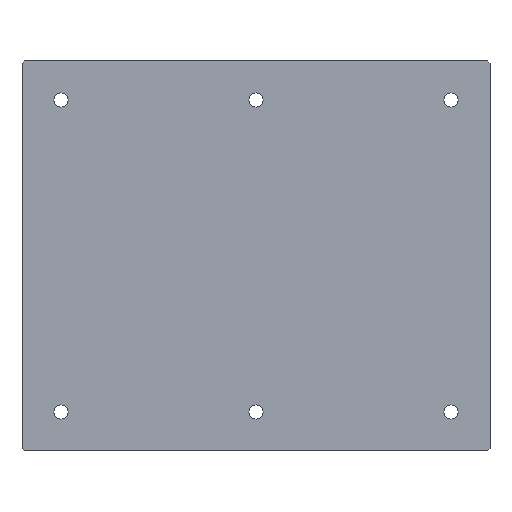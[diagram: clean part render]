
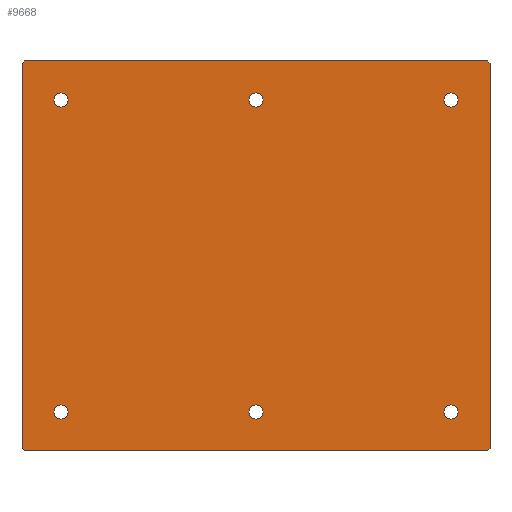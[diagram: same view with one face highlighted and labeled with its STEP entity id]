
A CAD part, front view. The second image highlights one B-rep face of the part: STEP entity #9668.
In plain terms, the highlighted planar face has unit normal (0, -1, 0).
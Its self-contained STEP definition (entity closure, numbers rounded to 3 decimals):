
#2437=CARTESIAN_POINT('',(-250.,-30.,200.));
#2438=DIRECTION('',(0.,-1.,0.));
#2439=DIRECTION('',(1.,0.,0.));
#2440=AXIS2_PLACEMENT_3D('',#2437,#2438,#2439);
#2442=CARTESIAN_POINT('',(-250.,-30.,200.));
#2443=DIRECTION('',(0.,-1.,0.));
#2444=DIRECTION('',(-1.,0.,0.));
#2445=AXIS2_PLACEMENT_3D('',#2442,#2443,#2444);
#2447=CARTESIAN_POINT('',(250.,-30.,200.));
#2448=DIRECTION('',(0.,-1.,0.));
#2449=DIRECTION('',(1.,0.,0.));
#2450=AXIS2_PLACEMENT_3D('',#2447,#2448,#2449);
#2452=CARTESIAN_POINT('',(250.,-30.,200.));
#2453=DIRECTION('',(0.,-1.,0.));
#2454=DIRECTION('',(-1.,0.,0.));
#2455=AXIS2_PLACEMENT_3D('',#2452,#2453,#2454);
#2457=CARTESIAN_POINT('',(0.,-30.,200.));
#2458=DIRECTION('',(0.,-1.,0.));
#2459=DIRECTION('',(1.,0.,0.));
#2460=AXIS2_PLACEMENT_3D('',#2457,#2458,#2459);
#2462=CARTESIAN_POINT('',(0.,-30.,200.));
#2463=DIRECTION('',(0.,-1.,0.));
#2464=DIRECTION('',(-1.,0.,0.));
#2465=AXIS2_PLACEMENT_3D('',#2462,#2463,#2464);
#2467=CARTESIAN_POINT('',(-250.,-30.,-200.));
#2468=DIRECTION('',(0.,1.,0.));
#2469=DIRECTION('',(1.,0.,0.));
#2470=AXIS2_PLACEMENT_3D('',#2467,#2468,#2469);
#2472=CARTESIAN_POINT('',(-250.,-30.,-200.));
#2473=DIRECTION('',(0.,1.,0.));
#2474=DIRECTION('',(-1.,0.,0.));
#2475=AXIS2_PLACEMENT_3D('',#2472,#2473,#2474);
#2477=CARTESIAN_POINT('',(250.,-30.,-200.));
#2478=DIRECTION('',(0.,1.,0.));
#2479=DIRECTION('',(1.,0.,0.));
#2480=AXIS2_PLACEMENT_3D('',#2477,#2478,#2479);
#2482=CARTESIAN_POINT('',(250.,-30.,-200.));
#2483=DIRECTION('',(0.,1.,0.));
#2484=DIRECTION('',(-1.,0.,0.));
#2485=AXIS2_PLACEMENT_3D('',#2482,#2483,#2484);
#2487=CARTESIAN_POINT('',(0.,-30.,-200.));
#2488=DIRECTION('',(0.,1.,0.));
#2489=DIRECTION('',(1.,0.,0.));
#2490=AXIS2_PLACEMENT_3D('',#2487,#2488,#2489);
#2492=CARTESIAN_POINT('',(0.,-30.,-200.));
#2493=DIRECTION('',(0.,1.,0.));
#2494=DIRECTION('',(-1.,0.,0.));
#2495=AXIS2_PLACEMENT_3D('',#2492,#2493,#2494);
#2497=DIRECTION('',(0.707,0.,-0.707));
#2498=VECTOR('',#2497,4.243);
#2499=CARTESIAN_POINT('',(-300.,-30.,-247.));
#2500=LINE('',#2499,#2498);
#2501=DIRECTION('',(0.,0.,1.));
#2502=VECTOR('',#2501,494.);
#2503=CARTESIAN_POINT('',(-300.,-30.,-247.));
#2504=LINE('',#2503,#2502);
#2505=DIRECTION('',(-0.707,0.,-0.707));
#2506=VECTOR('',#2505,4.243);
#2507=CARTESIAN_POINT('',(-297.,-30.,250.));
#2508=LINE('',#2507,#2506);
#2509=DIRECTION('',(1.,0.,0.));
#2510=VECTOR('',#2509,594.);
#2511=CARTESIAN_POINT('',(-297.,-30.,250.));
#2512=LINE('',#2511,#2510);
#2513=DIRECTION('',(-0.707,0.,0.707));
#2514=VECTOR('',#2513,4.243);
#2515=CARTESIAN_POINT('',(300.,-30.,247.));
#2516=LINE('',#2515,#2514);
#2517=DIRECTION('',(0.,0.,-1.));
#2518=VECTOR('',#2517,494.);
#2519=CARTESIAN_POINT('',(300.,-30.,247.));
#2520=LINE('',#2519,#2518);
#2521=DIRECTION('',(0.707,0.,0.707));
#2522=VECTOR('',#2521,4.243);
#2523=CARTESIAN_POINT('',(297.,-30.,-250.));
#2524=LINE('',#2523,#2522);
#2525=DIRECTION('',(-1.,0.,0.));
#2526=VECTOR('',#2525,594.);
#2527=CARTESIAN_POINT('',(297.,-30.,-250.));
#2528=LINE('',#2527,#2526);
#5865=CARTESIAN_POINT('',(9.,-30.,-200.));
#5866=CARTESIAN_POINT('',(-9.,-30.,-200.));
#5867=VERTEX_POINT('',#5865);
#5868=VERTEX_POINT('',#5866);
#5893=CARTESIAN_POINT('',(259.,-30.,-200.));
#5894=CARTESIAN_POINT('',(241.,-30.,-200.));
#5895=VERTEX_POINT('',#5893);
#5896=VERTEX_POINT('',#5894);
#5929=CARTESIAN_POINT('',(-241.,-30.,-200.));
#5931=VERTEX_POINT('',#5929);
#5933=CARTESIAN_POINT('',(-259.,-30.,-200.));
#5935=VERTEX_POINT('',#5933);
#5977=CARTESIAN_POINT('',(9.,-30.,200.));
#5978=VERTEX_POINT('',#5977);
#5979=CARTESIAN_POINT('',(-9.,-30.,200.));
#5980=VERTEX_POINT('',#5979);
#5989=CARTESIAN_POINT('',(259.,-30.,200.));
#5990=VERTEX_POINT('',#5989);
#5991=CARTESIAN_POINT('',(241.,-30.,200.));
#5992=VERTEX_POINT('',#5991);
#6025=CARTESIAN_POINT('',(-241.,-30.,200.));
#6027=VERTEX_POINT('',#6025);
#6029=CARTESIAN_POINT('',(-259.,-30.,200.));
#6031=VERTEX_POINT('',#6029);
#6321=CARTESIAN_POINT('',(-300.,-30.,-247.));
#6322=CARTESIAN_POINT('',(-297.,-30.,-250.));
#6323=VERTEX_POINT('',#6321);
#6324=VERTEX_POINT('',#6322);
#6329=CARTESIAN_POINT('',(-297.,-30.,250.));
#6330=CARTESIAN_POINT('',(-300.,-30.,247.));
#6331=VERTEX_POINT('',#6329);
#6332=VERTEX_POINT('',#6330);
#6337=CARTESIAN_POINT('',(300.,-30.,247.));
#6338=CARTESIAN_POINT('',(297.,-30.,250.));
#6339=VERTEX_POINT('',#6337);
#6340=VERTEX_POINT('',#6338);
#6345=CARTESIAN_POINT('',(297.,-30.,-250.));
#6346=CARTESIAN_POINT('',(300.,-30.,-247.));
#6347=VERTEX_POINT('',#6345);
#6348=VERTEX_POINT('',#6346);
#9611=CARTESIAN_POINT('',(0.,-30.,0.));
#9612=DIRECTION('',(0.,1.,0.));
#9613=DIRECTION('',(1.,0.,0.));
#9614=AXIS2_PLACEMENT_3D('',#9611,#9612,#9613);
#9615=PLANE('',#9614);
#9616=ORIENTED_EDGE('',*,*,#9602,.F.);
#9617=ORIENTED_EDGE('',*,*,#9592,.T.);
#9619=ORIENTED_EDGE('',*,*,#9618,.F.);
#9621=ORIENTED_EDGE('',*,*,#9620,.T.);
#9623=ORIENTED_EDGE('',*,*,#9622,.F.);
#9625=ORIENTED_EDGE('',*,*,#9624,.T.);
#9627=ORIENTED_EDGE('',*,*,#9626,.F.);
#9629=ORIENTED_EDGE('',*,*,#9628,.T.);
#9630=EDGE_LOOP('',(#9616,#9617,#9619,#9621,#9623,#9625,#9627,#9629));
#9631=FACE_OUTER_BOUND('',#9630,.F.);
#9633=ORIENTED_EDGE('',*,*,#9632,.T.);
#9635=ORIENTED_EDGE('',*,*,#9634,.T.);
#9636=EDGE_LOOP('',(#9633,#9635));
#9637=FACE_BOUND('',#9636,.F.);
#9639=ORIENTED_EDGE('',*,*,#9638,.T.);
#9641=ORIENTED_EDGE('',*,*,#9640,.T.);
#9642=EDGE_LOOP('',(#9639,#9641));
#9643=FACE_BOUND('',#9642,.F.);
#9645=ORIENTED_EDGE('',*,*,#9644,.F.);
#9647=ORIENTED_EDGE('',*,*,#9646,.F.);
#9648=EDGE_LOOP('',(#9645,#9647));
#9649=FACE_BOUND('',#9648,.F.);
#9651=ORIENTED_EDGE('',*,*,#9650,.F.);
#9653=ORIENTED_EDGE('',*,*,#9652,.F.);
#9654=EDGE_LOOP('',(#9651,#9653));
#9655=FACE_BOUND('',#9654,.F.);
#9657=ORIENTED_EDGE('',*,*,#9656,.F.);
#9659=ORIENTED_EDGE('',*,*,#9658,.F.);
#9660=EDGE_LOOP('',(#9657,#9659));
#9661=FACE_BOUND('',#9660,.F.);
#9663=ORIENTED_EDGE('',*,*,#9662,.T.);
#9665=ORIENTED_EDGE('',*,*,#9664,.T.);
#9666=EDGE_LOOP('',(#9663,#9665));
#9667=FACE_BOUND('',#9666,.F.);
#9668=ADVANCED_FACE('',(#9631,#9637,#9643,#9649,#9655,#9661,#9667),#9615,.F.);
#2441=CIRCLE('',#2440,9.);
#2446=CIRCLE('',#2445,9.);
#2451=CIRCLE('',#2450,9.);
#2456=CIRCLE('',#2455,9.);
#2461=CIRCLE('',#2460,9.);
#2466=CIRCLE('',#2465,9.);
#2471=CIRCLE('',#2470,9.);
#2476=CIRCLE('',#2475,9.);
#2481=CIRCLE('',#2480,9.);
#2486=CIRCLE('',#2485,9.);
#2491=CIRCLE('',#2490,9.);
#2496=CIRCLE('',#2495,9.);
#9592=EDGE_CURVE('',#6323,#6332,#2504,.T.);
#9602=EDGE_CURVE('',#6323,#6324,#2500,.T.);
#9618=EDGE_CURVE('',#6331,#6332,#2508,.T.);
#9620=EDGE_CURVE('',#6331,#6340,#2512,.T.);
#9622=EDGE_CURVE('',#6339,#6340,#2516,.T.);
#9624=EDGE_CURVE('',#6339,#6348,#2520,.T.);
#9626=EDGE_CURVE('',#6347,#6348,#2524,.T.);
#9628=EDGE_CURVE('',#6347,#6324,#2528,.T.);
#9632=EDGE_CURVE('',#5990,#5992,#2451,.T.);
#9634=EDGE_CURVE('',#5992,#5990,#2456,.T.);
#9638=EDGE_CURVE('',#5978,#5980,#2461,.T.);
#9640=EDGE_CURVE('',#5980,#5978,#2466,.T.);
#9644=EDGE_CURVE('',#5931,#5935,#2471,.T.);
#9646=EDGE_CURVE('',#5935,#5931,#2476,.T.);
#9650=EDGE_CURVE('',#5895,#5896,#2481,.T.);
#9652=EDGE_CURVE('',#5896,#5895,#2486,.T.);
#9656=EDGE_CURVE('',#5867,#5868,#2491,.T.);
#9658=EDGE_CURVE('',#5868,#5867,#2496,.T.);
#9662=EDGE_CURVE('',#6027,#6031,#2441,.T.);
#9664=EDGE_CURVE('',#6031,#6027,#2446,.T.);
